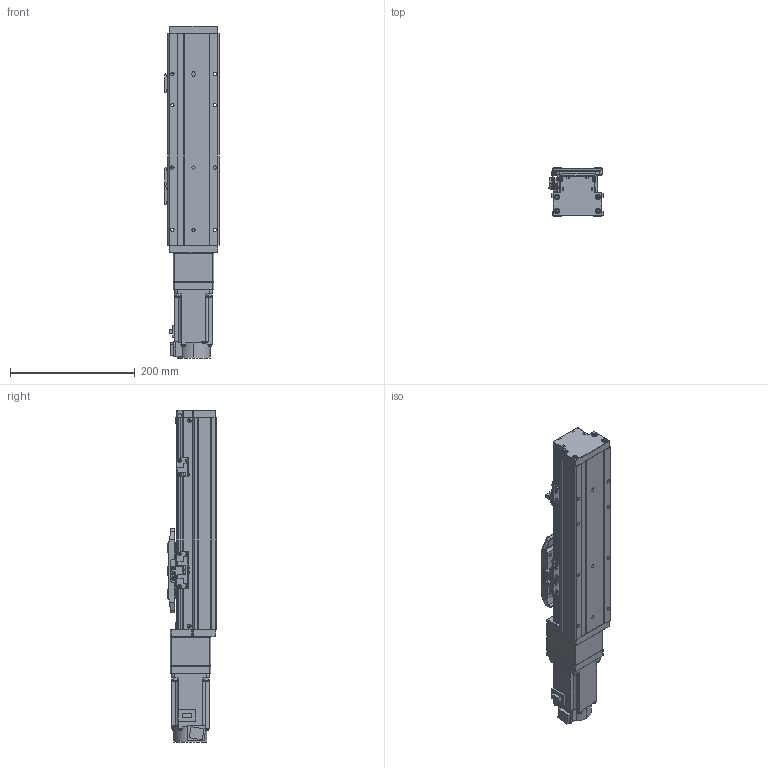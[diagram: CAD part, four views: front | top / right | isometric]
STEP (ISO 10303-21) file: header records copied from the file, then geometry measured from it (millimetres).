
FILE_DESCRIPTION (( 'STEP AP203' ), '1' );
FILE_NAME ('GTH8-150-BC-M20-C4.step', '2022-09-23T00:53:58', ( '微软用户' ), ( '微软中国' ), 'SwSTEP 2.0', 'SolidWorks 2020', '' );
FILE_SCHEMA (( 'CONFIG_CONTROL_DESIGN' ));
Length unit declared in the file: millimetre
Products named in the file (19): GTH50-024; hg-kn43j_-s100_; GTH80-013; GTH50-023; GTH8-150-BC-M20-C4; GBT 70.3-M3℅6; GBT96.1-2002 3×0.8; GTH80-022; BTH-M3X5X6; GTH80-001_150; GBT 70.1-M3℅6; CTHA86-006-1_CTHA86-006-2; GTH80-003; GBT 70.1-M4×16; CTHA86-013; GTH80-004; GTH80-028; CTHA86-027; GTH80-006
Assembly tree (60 placements, depth 2):
  GTH8-150-BC-M20-C4
    GTH80-001_150
    GTH80-003
    GTH80-004
    GTH80-006
    GTH80-013
    GBT 70.3-M3℅6  x6
    GTH80-022
    GBT 70.1-M3℅6  x14
    GBT 70.1-M4×16  x8
    GTH80-028  x2
    GTH50-024  x3
    GTH50-023  x3
    GBT96.1-2002 3×0.8  x6
    BTH-M3X5X6  x8
    CTHA86-006-1_CTHA86-006-2
    CTHA86-013
    CTHA86-027
    hg-kn43j_-s100_
Bounding box: 86.9 x 78 x 532.7 mm (x, y, z)
Volume: 2283398 mm3; surface area: 297487 mm2
Topology: 62 solids, 62 shells, 2215 faces, 5080 edges, 3091 vertices
Faces by surface type: plane 1173, cylinder 585, cone 285, torus 162, sphere 8, bspline 2
Entity records: 38224 total; most frequent: CARTESIAN_POINT 6311, DIRECTION 6254, ORIENTED_EDGE 5750, EDGE_CURVE 2875, AXIS2_PLACEMENT_3D 2176, LINE 1902, VECTOR 1902, VERTEX_POINT 1804
